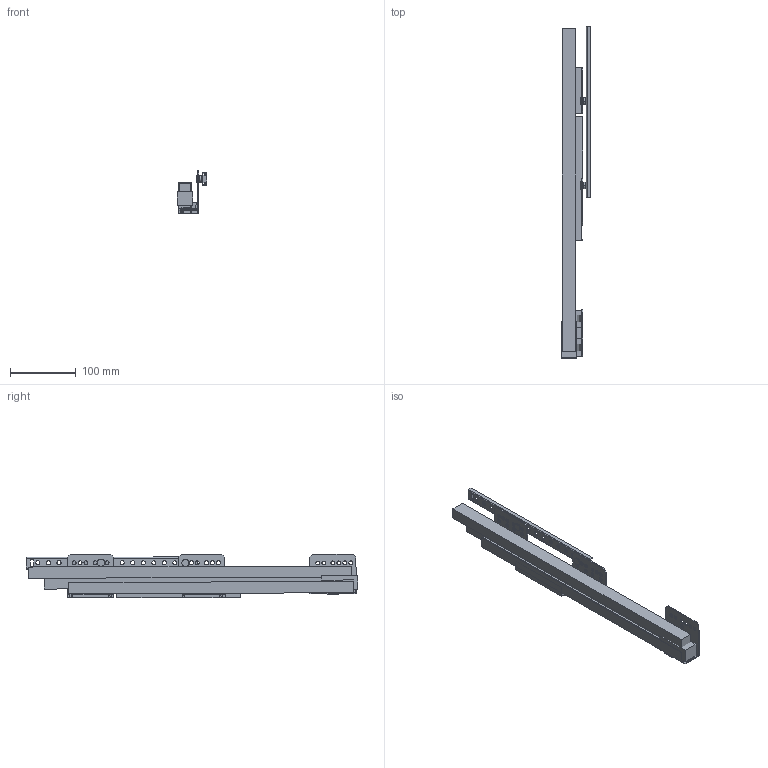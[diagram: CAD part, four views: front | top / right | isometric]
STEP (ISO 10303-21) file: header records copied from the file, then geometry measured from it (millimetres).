
FILE_DESCRIPTION (( 'STEP AP214' ), '1' );
FILE_NAME ('IMOS Dynamic-XP_RE_Mittelaufhaengung.STEP', '2010-10-07T06:15:18', ( 'Grass' ), ( '' ), 'SwSTEP 2.0', 'SolidWorks 2010', '' );
FILE_SCHEMA (( 'AUTOMOTIVE_DESIGN' ));
Length unit declared in the file: millimetre
Products named in the file (1): IMOS Dynamic-XP_RE_Mittelaufhaengung
Bounding box: 44.5 x 504.03 x 66.67 mm (x, y, z)
Volume: 470347.8 mm3; surface area: 191735.7 mm2
Topology: 9 solids, 9 shells, 303 faces, 803 edges, 530 vertices
Faces by surface type: plane 179, cylinder 112, cone 8, torus 4
Entity records: 9695 total; most frequent: DIRECTION 1651, CARTESIAN_POINT 1637, ORIENTED_EDGE 1606, EDGE_CURVE 803, LINE 563, VECTOR 563, AXIS2_PLACEMENT_3D 544, VERTEX_POINT 530
